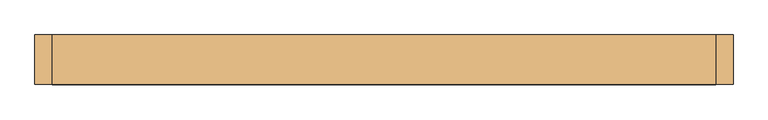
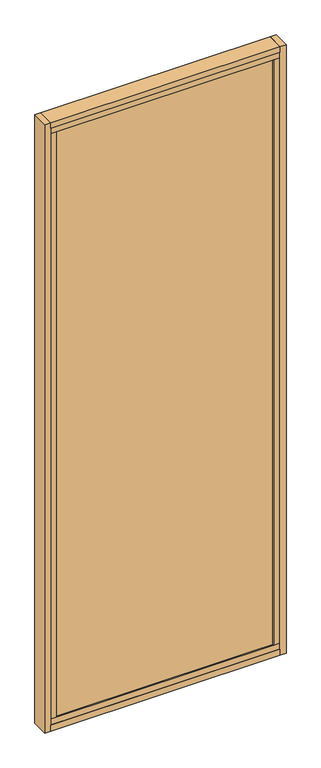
"""IFC4 building model written with IfcOpenShell, lengths in millimetres: door geometry, Mobiliário_Mobiliário de Escritório_Painel de Vidro Duplo com Persiana - AWT E AWL (Completo)_Marelli : AWT - Temperado."""

from ifc_helpers import new_model, si_unit, frame, origin, origin_with_axes, place, context, project, spatial, polyline, outline, extrude, source, transform, mapped, element, save


def door_aa0b3f22(model_context):
    return source(origin(), model_context, "Body", "SweptSolid", [
        extrude(outline(polyline([(570.0, 42.5), (570.0, -42.5), (-570.0, -42.5), (-570.0, 42.5), (570.0, 42.5)])), origin_with_axes(), (0.0, 0.0, 1.0), 30.0),
        extrude(outline(polyline([(570.0, 39.5), (570.0, -39.5), (-570.0, -39.5), (-570.0, 39.5), (570.0, 39.5)])), frame((0.0, 0.0, 30.0), z_axis=(0.0, 0.0, 1.0), x_axis=(1.0, 0.0, 0.0)), (0.0, 0.0, 1.0), 30.0),
        extrude(outline(polyline([(540.0, 13.6216022), (540.0, -11.3783978), (-540.0, -11.3783978), (-540.0, 13.6216022), (540.0, 13.6216022)])), frame((0.0, 0.0, 3107.0), z_axis=(0.0, 0.0, 1.0), x_axis=(1.0, 0.0, 0.0)), (0.0, 0.0, 1.0), 25.0),
        extrude(outline(polyline([(570.0, 42.5), (570.0, -42.5), (-570.0, -42.5), (-570.0, 42.5), (570.0, 42.5)])), frame((0.0, 0.0, 3170.0), z_axis=(0.0, 0.0, 1.0), x_axis=(1.0, 0.0, 0.0)), (0.0, 0.0, 1.0), 30.0),
        extrude(outline(polyline([(570.0, 39.5), (570.0, -39.5), (-570.0, -39.5), (-570.0, 39.5), (570.0, 39.5)])), frame((0.0, 0.0, 3140.0), z_axis=(0.0, 0.0, 1.0), x_axis=(1.0, 0.0, 0.0)), (0.0, 0.0, 1.0), 30.0),
        extrude(outline(polyline([(-600.0, -42.5), (-600.0, 42.5), (-570.0, 42.5), (-570.0, -42.5), (-600.0, -42.5)])), origin_with_axes(), (0.0, 0.0, 1.0), 3200.0),
        extrude(outline(polyline([(600.0, -42.5), (570.0, -42.5), (570.0, 42.5), (600.0, 42.5), (600.0, -42.5)])), origin_with_axes(), (0.0, 0.0, 1.0), 3200.0),
        extrude(outline(polyline([(-540.0, 39.5), (-540.0, -39.5), (-570.0, -39.5), (-570.0, 39.5), (-540.0, 39.5)])), frame((0.0, 0.0, 60.0), z_axis=(0.0, 0.0, 1.0), x_axis=(1.0, 0.0, 0.0)), (0.0, 0.0, 1.0), 3080.0),
        extrude(outline(polyline([(540.0, 39.5), (570.0, 39.5), (570.0, -39.5), (540.0, -39.5), (540.0, 39.5)])), frame((0.0, 0.0, 60.0), z_axis=(0.0, 0.0, 1.0), x_axis=(1.0, 0.0, 0.0)), (0.0, 0.0, 1.0), 3080.0),
        extrude(outline(polyline([(540.0, -25.5), (540.0, -31.5), (-540.0, -31.5), (-540.0, -25.5), (540.0, -25.5)])), frame((0.0, 0.0, 60.0), z_axis=(0.0, 0.0, 1.0), x_axis=(1.0, 0.0, 0.0)), (0.0, 0.0, 1.0), 3080.0),
        extrude(outline(polyline([(540.0, 31.5), (540.0, 25.5), (-540.0, 25.5), (-540.0, 31.5), (540.0, 31.5)])), frame((0.0, 0.0, 60.0), z_axis=(0.0, 0.0, 1.0), x_axis=(1.0, 0.0, 0.0)), (0.0, 0.0, 1.0), 3080.0),
        extrude(outline(polyline([(540.0, 8.0), (540.0, -8.0), (-540.0, -8.0), (-540.0, 8.0), (540.0, 8.0)])), frame((0.0, 0.0, 1051.2), z_axis=(0.0, 0.0, 1.0), x_axis=(1.0, 0.0, 0.0)), (0.0, 0.0, 1.0), 0.8),
        extrude(outline(polyline([(540.0, 8.0), (540.0, -8.0), (-540.0, -8.0), (-540.0, 8.0), (540.0, 8.0)])), frame((0.0, 0.0, 1081.2), z_axis=(0.0, 0.0, 1.0), x_axis=(1.0, 0.0, 0.0)), (0.0, 0.0, 1.0), 0.8),
        extrude(outline(polyline([(540.0, 8.0), (540.0, -8.0), (-540.0, -8.0), (-540.0, 8.0), (540.0, 8.0)])), frame((0.0, 0.0, 1111.2), z_axis=(0.0, 0.0, 1.0), x_axis=(1.0, 0.0, 0.0)), (0.0, 0.0, 1.0), 0.8),
        extrude(outline(polyline([(540.0, 8.0), (540.0, -8.0), (-540.0, -8.0), (-540.0, 8.0), (540.0, 8.0)])), frame((0.0, 0.0, 1141.2), z_axis=(0.0, 0.0, 1.0), x_axis=(1.0, 0.0, 0.0)), (0.0, 0.0, 1.0), 0.8),
        extrude(outline(polyline([(540.0, 8.0), (540.0, -8.0), (-540.0, -8.0), (-540.0, 8.0), (540.0, 8.0)])), frame((0.0, 0.0, 1171.2), z_axis=(0.0, 0.0, 1.0), x_axis=(1.0, 0.0, 0.0)), (0.0, 0.0, 1.0), 0.8),
        extrude(outline(polyline([(540.0, 8.0), (540.0, -8.0), (-540.0, -8.0), (-540.0, 8.0), (540.0, 8.0)])), frame((0.0, 0.0, 1021.2), z_axis=(0.0, 0.0, 1.0), x_axis=(1.0, 0.0, 0.0)), (0.0, 0.0, 1.0), 0.8),
        extrude(outline(polyline([(540.0, 8.0), (540.0, -8.0), (-540.0, -8.0), (-540.0, 8.0), (540.0, 8.0)])), frame((0.0, 0.0, 991.2), z_axis=(0.0, 0.0, 1.0), x_axis=(1.0, 0.0, 0.0)), (0.0, 0.0, 1.0), 0.8),
        extrude(outline(polyline([(540.0, 8.0), (540.0, -8.0), (-540.0, -8.0), (-540.0, 8.0), (540.0, 8.0)])), frame((0.0, 0.0, 961.2), z_axis=(0.0, 0.0, 1.0), x_axis=(1.0, 0.0, 0.0)), (0.0, 0.0, 1.0), 0.8),
        extrude(outline(polyline([(540.0, 8.0), (540.0, -8.0), (-540.0, -8.0), (-540.0, 8.0), (540.0, 8.0)])), frame((0.0, 0.0, 931.2), z_axis=(0.0, 0.0, 1.0), x_axis=(1.0, 0.0, 0.0)), (0.0, 0.0, 1.0), 0.8),
        extrude(outline(polyline([(540.0, 8.0), (540.0, -8.0), (-540.0, -8.0), (-540.0, 8.0), (540.0, 8.0)])), frame((0.0, 0.0, 901.2), z_axis=(0.0, 0.0, 1.0), x_axis=(1.0, 0.0, 0.0)), (0.0, 0.0, 1.0), 0.8),
        extrude(outline(polyline([(540.0, 8.0), (540.0, -8.0), (-540.0, -8.0), (-540.0, 8.0), (540.0, 8.0)])), frame((0.0, 0.0, 661.2), z_axis=(0.0, 0.0, 1.0), x_axis=(1.0, 0.0, 0.0)), (0.0, 0.0, 1.0), 0.8),
        extrude(outline(polyline([(540.0, 8.0), (540.0, -8.0), (-540.0, -8.0), (-540.0, 8.0), (540.0, 8.0)])), frame((0.0, 0.0, 691.2), z_axis=(0.0, 0.0, 1.0), x_axis=(1.0, 0.0, 0.0)), (0.0, 0.0, 1.0), 0.8),
        extrude(outline(polyline([(540.0, 8.0), (540.0, -8.0), (-540.0, -8.0), (-540.0, 8.0), (540.0, 8.0)])), frame((0.0, 0.0, 721.2), z_axis=(0.0, 0.0, 1.0), x_axis=(1.0, 0.0, 0.0)), (0.0, 0.0, 1.0), 0.8),
        extrude(outline(polyline([(540.0, 8.0), (540.0, -8.0), (-540.0, -8.0), (-540.0, 8.0), (540.0, 8.0)])), frame((0.0, 0.0, 751.2), z_axis=(0.0, 0.0, 1.0), x_axis=(1.0, 0.0, 0.0)), (0.0, 0.0, 1.0), 0.8),
        extrude(outline(polyline([(540.0, 8.0), (540.0, -8.0), (-540.0, -8.0), (-540.0, 8.0), (540.0, 8.0)])), frame((0.0, 0.0, 781.2), z_axis=(0.0, 0.0, 1.0), x_axis=(1.0, 0.0, 0.0)), (0.0, 0.0, 1.0), 0.8),
        extrude(outline(polyline([(540.0, 8.0), (540.0, -8.0), (-540.0, -8.0), (-540.0, 8.0), (540.0, 8.0)])), frame((0.0, 0.0, 811.2), z_axis=(0.0, 0.0, 1.0), x_axis=(1.0, 0.0, 0.0)), (0.0, 0.0, 1.0), 0.8),
        extrude(outline(polyline([(540.0, 8.0), (540.0, -8.0), (-540.0, -8.0), (-540.0, 8.0), (540.0, 8.0)])), frame((0.0, 0.0, 841.2), z_axis=(0.0, 0.0, 1.0), x_axis=(1.0, 0.0, 0.0)), (0.0, 0.0, 1.0), 0.8),
        extrude(outline(polyline([(540.0, 8.0), (540.0, -8.0), (-540.0, -8.0), (-540.0, 8.0), (540.0, 8.0)])), frame((0.0, 0.0, 871.2), z_axis=(0.0, 0.0, 1.0), x_axis=(1.0, 0.0, 0.0)), (0.0, 0.0, 1.0), 0.8),
        extrude(outline(polyline([(540.0, 8.0), (540.0, -8.0), (-540.0, -8.0), (-540.0, 8.0), (540.0, 8.0)])), frame((0.0, 0.0, 3091.2), z_axis=(0.0, 0.0, 1.0), x_axis=(1.0, 0.0, 0.0)), (0.0, 0.0, 1.0), 0.8),
        extrude(outline(polyline([(540.0, 8.0), (540.0, -8.0), (-540.0, -8.0), (-540.0, 8.0), (540.0, 8.0)])), frame((0.0, 0.0, 3061.2), z_axis=(0.0, 0.0, 1.0), x_axis=(1.0, 0.0, 0.0)), (0.0, 0.0, 1.0), 0.8),
        extrude(outline(polyline([(540.0, 8.0), (540.0, -8.0), (-540.0, -8.0), (-540.0, 8.0), (540.0, 8.0)])), frame((0.0, 0.0, 3031.2), z_axis=(0.0, 0.0, 1.0), x_axis=(1.0, 0.0, 0.0)), (0.0, 0.0, 1.0), 0.8),
        extrude(outline(polyline([(540.0, 8.0), (540.0, -8.0), (-540.0, -8.0), (-540.0, 8.0), (540.0, 8.0)])), frame((0.0, 0.0, 3001.2), z_axis=(0.0, 0.0, 1.0), x_axis=(1.0, 0.0, 0.0)), (0.0, 0.0, 1.0), 0.8),
        extrude(outline(polyline([(540.0, 8.0), (540.0, -8.0), (-540.0, -8.0), (-540.0, 8.0), (540.0, 8.0)])), frame((0.0, 0.0, 2971.2), z_axis=(0.0, 0.0, 1.0), x_axis=(1.0, 0.0, 0.0)), (0.0, 0.0, 1.0), 0.8),
        extrude(outline(polyline([(540.0, 8.0), (540.0, -8.0), (-540.0, -8.0), (-540.0, 8.0), (540.0, 8.0)])), frame((0.0, 0.0, 2941.2), z_axis=(0.0, 0.0, 1.0), x_axis=(1.0, 0.0, 0.0)), (0.0, 0.0, 1.0), 0.8),
        extrude(outline(polyline([(540.0, 8.0), (540.0, -8.0), (-540.0, -8.0), (-540.0, 8.0), (540.0, 8.0)])), frame((0.0, 0.0, 2911.2), z_axis=(0.0, 0.0, 1.0), x_axis=(1.0, 0.0, 0.0)), (0.0, 0.0, 1.0), 0.8),
        extrude(outline(polyline([(540.0, 8.0), (540.0, -8.0), (-540.0, -8.0), (-540.0, 8.0), (540.0, 8.0)])), frame((0.0, 0.0, 2881.2), z_axis=(0.0, 0.0, 1.0), x_axis=(1.0, 0.0, 0.0)), (0.0, 0.0, 1.0), 0.8),
        extrude(outline(polyline([(540.0, 8.0), (540.0, -8.0), (-540.0, -8.0), (-540.0, 8.0), (540.0, 8.0)])), frame((0.0, 0.0, 2851.2), z_axis=(0.0, 0.0, 1.0), x_axis=(1.0, 0.0, 0.0)), (0.0, 0.0, 1.0), 0.8),
        extrude(outline(polyline([(540.0, 8.0), (540.0, -8.0), (-540.0, -8.0), (-540.0, 8.0), (540.0, 8.0)])), frame((0.0, 0.0, 2821.2), z_axis=(0.0, 0.0, 1.0), x_axis=(1.0, 0.0, 0.0)), (0.0, 0.0, 1.0), 0.8),
        extrude(outline(polyline([(540.0, 8.0), (540.0, -8.0), (-540.0, -8.0), (-540.0, 8.0), (540.0, 8.0)])), frame((0.0, 0.0, 2791.2), z_axis=(0.0, 0.0, 1.0), x_axis=(1.0, 0.0, 0.0)), (0.0, 0.0, 1.0), 0.8),
        extrude(outline(polyline([(540.0, 8.0), (540.0, -8.0), (-540.0, -8.0), (-540.0, 8.0), (540.0, 8.0)])), frame((0.0, 0.0, 2761.2), z_axis=(0.0, 0.0, 1.0), x_axis=(1.0, 0.0, 0.0)), (0.0, 0.0, 1.0), 0.8),
        extrude(outline(polyline([(540.0, 8.0), (540.0, -8.0), (-540.0, -8.0), (-540.0, 8.0), (540.0, 8.0)])), frame((0.0, 0.0, 2731.2), z_axis=(0.0, 0.0, 1.0), x_axis=(1.0, 0.0, 0.0)), (0.0, 0.0, 1.0), 0.8),
        extrude(outline(polyline([(540.0, 8.0), (540.0, -8.0), (-540.0, -8.0), (-540.0, 8.0), (540.0, 8.0)])), frame((0.0, 0.0, 2701.2), z_axis=(0.0, 0.0, 1.0), x_axis=(1.0, 0.0, 0.0)), (0.0, 0.0, 1.0), 0.8),
        extrude(outline(polyline([(540.0, 8.0), (540.0, -8.0), (-540.0, -8.0), (-540.0, 8.0), (540.0, 8.0)])), frame((0.0, 0.0, 2671.2), z_axis=(0.0, 0.0, 1.0), x_axis=(1.0, 0.0, 0.0)), (0.0, 0.0, 1.0), 0.8),
        extrude(outline(polyline([(540.0, 8.0), (540.0, -8.0), (-540.0, -8.0), (-540.0, 8.0), (540.0, 8.0)])), frame((0.0, 0.0, 2641.2), z_axis=(0.0, 0.0, 1.0), x_axis=(1.0, 0.0, 0.0)), (0.0, 0.0, 1.0), 0.8),
        extrude(outline(polyline([(540.0, 8.0), (540.0, -8.0), (-540.0, -8.0), (-540.0, 8.0), (540.0, 8.0)])), frame((0.0, 0.0, 2611.2), z_axis=(0.0, 0.0, 1.0), x_axis=(1.0, 0.0, 0.0)), (0.0, 0.0, 1.0), 0.8),
        extrude(outline(polyline([(540.0, 8.0), (540.0, -8.0), (-540.0, -8.0), (-540.0, 8.0), (540.0, 8.0)])), frame((0.0, 0.0, 2581.2), z_axis=(0.0, 0.0, 1.0), x_axis=(1.0, 0.0, 0.0)), (0.0, 0.0, 1.0), 0.8),
        extrude(outline(polyline([(540.0, 8.0), (540.0, -8.0), (-540.0, -8.0), (-540.0, 8.0), (540.0, 8.0)])), frame((0.0, 0.0, 2551.2), z_axis=(0.0, 0.0, 1.0), x_axis=(1.0, 0.0, 0.0)), (0.0, 0.0, 1.0), 0.8),
        extrude(outline(polyline([(540.0, 8.0), (540.0, -8.0), (-540.0, -8.0), (-540.0, 8.0), (540.0, 8.0)])), frame((0.0, 0.0, 2521.2), z_axis=(0.0, 0.0, 1.0), x_axis=(1.0, 0.0, 0.0)), (0.0, 0.0, 1.0), 0.8),
        extrude(outline(polyline([(540.0, 8.0), (540.0, -8.0), (-540.0, -8.0), (-540.0, 8.0), (540.0, 8.0)])), frame((0.0, 0.0, 2491.2), z_axis=(0.0, 0.0, 1.0), x_axis=(1.0, 0.0, 0.0)), (0.0, 0.0, 1.0), 0.8),
        extrude(outline(polyline([(540.0, 8.0), (540.0, -8.0), (-540.0, -8.0), (-540.0, 8.0), (540.0, 8.0)])), frame((0.0, 0.0, 2461.2), z_axis=(0.0, 0.0, 1.0), x_axis=(1.0, 0.0, 0.0)), (0.0, 0.0, 1.0), 0.8),
        extrude(outline(polyline([(540.0, 8.0), (540.0, -8.0), (-540.0, -8.0), (-540.0, 8.0), (540.0, 8.0)])), frame((0.0, 0.0, 2431.2), z_axis=(0.0, 0.0, 1.0), x_axis=(1.0, 0.0, 0.0)), (0.0, 0.0, 1.0), 0.8),
        extrude(outline(polyline([(540.0, 8.0), (540.0, -8.0), (-540.0, -8.0), (-540.0, 8.0), (540.0, 8.0)])), frame((0.0, 0.0, 2401.2), z_axis=(0.0, 0.0, 1.0), x_axis=(1.0, 0.0, 0.0)), (0.0, 0.0, 1.0), 0.8),
        extrude(outline(polyline([(540.0, 8.0), (540.0, -8.0), (-540.0, -8.0), (-540.0, 8.0), (540.0, 8.0)])), frame((0.0, 0.0, 2371.2), z_axis=(0.0, 0.0, 1.0), x_axis=(1.0, 0.0, 0.0)), (0.0, 0.0, 1.0), 0.8),
        extrude(outline(polyline([(540.0, 8.0), (540.0, -8.0), (-540.0, -8.0), (-540.0, 8.0), (540.0, 8.0)])), frame((0.0, 0.0, 2341.2), z_axis=(0.0, 0.0, 1.0), x_axis=(1.0, 0.0, 0.0)), (0.0, 0.0, 1.0), 0.8),
        extrude(outline(polyline([(540.0, 8.0), (540.0, -8.0), (-540.0, -8.0), (-540.0, 8.0), (540.0, 8.0)])), frame((0.0, 0.0, 2311.2), z_axis=(0.0, 0.0, 1.0), x_axis=(1.0, 0.0, 0.0)), (0.0, 0.0, 1.0), 0.8),
        extrude(outline(polyline([(540.0, 8.0), (540.0, -8.0), (-540.0, -8.0), (-540.0, 8.0), (540.0, 8.0)])), frame((0.0, 0.0, 2281.2), z_axis=(0.0, 0.0, 1.0), x_axis=(1.0, 0.0, 0.0)), (0.0, 0.0, 1.0), 0.8),
        extrude(outline(polyline([(540.0, 8.0), (540.0, -8.0), (-540.0, -8.0), (-540.0, 8.0), (540.0, 8.0)])), frame((0.0, 0.0, 2251.2), z_axis=(0.0, 0.0, 1.0), x_axis=(1.0, 0.0, 0.0)), (0.0, 0.0, 1.0), 0.8),
        extrude(outline(polyline([(540.0, 8.0), (540.0, -8.0), (-540.0, -8.0), (-540.0, 8.0), (540.0, 8.0)])), frame((0.0, 0.0, 2221.2), z_axis=(0.0, 0.0, 1.0), x_axis=(1.0, 0.0, 0.0)), (0.0, 0.0, 1.0), 0.8),
        extrude(outline(polyline([(540.0, 8.0), (540.0, -8.0), (-540.0, -8.0), (-540.0, 8.0), (540.0, 8.0)])), frame((0.0, 0.0, 2191.2), z_axis=(0.0, 0.0, 1.0), x_axis=(1.0, 0.0, 0.0)), (0.0, 0.0, 1.0), 0.8),
        extrude(outline(polyline([(540.0, 8.0), (540.0, -8.0), (-540.0, -8.0), (-540.0, 8.0), (540.0, 8.0)])), frame((0.0, 0.0, 2161.2), z_axis=(0.0, 0.0, 1.0), x_axis=(1.0, 0.0, 0.0)), (0.0, 0.0, 1.0), 0.8),
        extrude(outline(polyline([(540.0, 8.0), (540.0, -8.0), (-540.0, -8.0), (-540.0, 8.0), (540.0, 8.0)])), frame((0.0, 0.0, 2131.2), z_axis=(0.0, 0.0, 1.0), x_axis=(1.0, 0.0, 0.0)), (0.0, 0.0, 1.0), 0.8),
        extrude(outline(polyline([(540.0, 8.0), (540.0, -8.0), (-540.0, -8.0), (-540.0, 8.0), (540.0, 8.0)])), frame((0.0, 0.0, 2101.2), z_axis=(0.0, 0.0, 1.0), x_axis=(1.0, 0.0, 0.0)), (0.0, 0.0, 1.0), 0.8),
        extrude(outline(polyline([(540.0, 8.0), (540.0, -8.0), (-540.0, -8.0), (-540.0, 8.0), (540.0, 8.0)])), frame((0.0, 0.0, 2071.2), z_axis=(0.0, 0.0, 1.0), x_axis=(1.0, 0.0, 0.0)), (0.0, 0.0, 1.0), 0.8),
        extrude(outline(polyline([(540.0, 8.0), (540.0, -8.0), (-540.0, -8.0), (-540.0, 8.0), (540.0, 8.0)])), frame((0.0, 0.0, 2041.2), z_axis=(0.0, 0.0, 1.0), x_axis=(1.0, 0.0, 0.0)), (0.0, 0.0, 1.0), 0.8),
        extrude(outline(polyline([(540.0, 8.0), (540.0, -8.0), (-540.0, -8.0), (-540.0, 8.0), (540.0, 8.0)])), frame((0.0, 0.0, 2011.2), z_axis=(0.0, 0.0, 1.0), x_axis=(1.0, 0.0, 0.0)), (0.0, 0.0, 1.0), 0.8),
        extrude(outline(polyline([(540.0, 8.0), (540.0, -8.0), (-540.0, -8.0), (-540.0, 8.0), (540.0, 8.0)])), frame((0.0, 0.0, 1981.2), z_axis=(0.0, 0.0, 1.0), x_axis=(1.0, 0.0, 0.0)), (0.0, 0.0, 1.0), 0.8),
        extrude(outline(polyline([(540.0, 8.0), (540.0, -8.0), (-540.0, -8.0), (-540.0, 8.0), (540.0, 8.0)])), frame((0.0, 0.0, 1951.2), z_axis=(0.0, 0.0, 1.0), x_axis=(1.0, 0.0, 0.0)), (0.0, 0.0, 1.0), 0.8),
        extrude(outline(polyline([(540.0, 8.0), (540.0, -8.0), (-540.0, -8.0), (-540.0, 8.0), (540.0, 8.0)])), frame((0.0, 0.0, 1921.2), z_axis=(0.0, 0.0, 1.0), x_axis=(1.0, 0.0, 0.0)), (0.0, 0.0, 1.0), 0.8),
        extrude(outline(polyline([(540.0, 8.0), (540.0, -8.0), (-540.0, -8.0), (-540.0, 8.0), (540.0, 8.0)])), frame((0.0, 0.0, 1891.2), z_axis=(0.0, 0.0, 1.0), x_axis=(1.0, 0.0, 0.0)), (0.0, 0.0, 1.0), 0.8),
        extrude(outline(polyline([(540.0, 8.0), (540.0, -8.0), (-540.0, -8.0), (-540.0, 8.0), (540.0, 8.0)])), frame((0.0, 0.0, 1861.2), z_axis=(0.0, 0.0, 1.0), x_axis=(1.0, 0.0, 0.0)), (0.0, 0.0, 1.0), 0.8),
        extrude(outline(polyline([(540.0, 8.0), (540.0, -8.0), (-540.0, -8.0), (-540.0, 8.0), (540.0, 8.0)])), frame((0.0, 0.0, 1831.2), z_axis=(0.0, 0.0, 1.0), x_axis=(1.0, 0.0, 0.0)), (0.0, 0.0, 1.0), 0.8),
        extrude(outline(polyline([(540.0, 8.0), (540.0, -8.0), (-540.0, -8.0), (-540.0, 8.0), (540.0, 8.0)])), frame((0.0, 0.0, 1801.2), z_axis=(0.0, 0.0, 1.0), x_axis=(1.0, 0.0, 0.0)), (0.0, 0.0, 1.0), 0.8),
        extrude(outline(polyline([(540.0, 8.0), (540.0, -8.0), (-540.0, -8.0), (-540.0, 8.0), (540.0, 8.0)])), frame((0.0, 0.0, 1501.2), z_axis=(0.0, 0.0, 1.0), x_axis=(1.0, 0.0, 0.0)), (0.0, 0.0, 1.0), 0.8),
        extrude(outline(polyline([(540.0, 8.0), (540.0, -8.0), (-540.0, -8.0), (-540.0, 8.0), (540.0, 8.0)])), frame((0.0, 0.0, 1531.2), z_axis=(0.0, 0.0, 1.0), x_axis=(1.0, 0.0, 0.0)), (0.0, 0.0, 1.0), 0.8),
        extrude(outline(polyline([(540.0, 8.0), (540.0, -8.0), (-540.0, -8.0), (-540.0, 8.0), (540.0, 8.0)])), frame((0.0, 0.0, 1561.2), z_axis=(0.0, 0.0, 1.0), x_axis=(1.0, 0.0, 0.0)), (0.0, 0.0, 1.0), 0.8),
        extrude(outline(polyline([(540.0, 8.0), (540.0, -8.0), (-540.0, -8.0), (-540.0, 8.0), (540.0, 8.0)])), frame((0.0, 0.0, 1591.2), z_axis=(0.0, 0.0, 1.0), x_axis=(1.0, 0.0, 0.0)), (0.0, 0.0, 1.0), 0.8),
        extrude(outline(polyline([(540.0, 8.0), (540.0, -8.0), (-540.0, -8.0), (-540.0, 8.0), (540.0, 8.0)])), frame((0.0, 0.0, 1621.2), z_axis=(0.0, 0.0, 1.0), x_axis=(1.0, 0.0, 0.0)), (0.0, 0.0, 1.0), 0.8),
        extrude(outline(polyline([(540.0, 8.0), (540.0, -8.0), (-540.0, -8.0), (-540.0, 8.0), (540.0, 8.0)])), frame((0.0, 0.0, 1651.2), z_axis=(0.0, 0.0, 1.0), x_axis=(1.0, 0.0, 0.0)), (0.0, 0.0, 1.0), 0.8),
        extrude(outline(polyline([(540.0, 8.0), (540.0, -8.0), (-540.0, -8.0), (-540.0, 8.0), (540.0, 8.0)])), frame((0.0, 0.0, 1681.2), z_axis=(0.0, 0.0, 1.0), x_axis=(1.0, 0.0, 0.0)), (0.0, 0.0, 1.0), 0.8),
        extrude(outline(polyline([(540.0, 8.0), (540.0, -8.0), (-540.0, -8.0), (-540.0, 8.0), (540.0, 8.0)])), frame((0.0, 0.0, 1711.2), z_axis=(0.0, 0.0, 1.0), x_axis=(1.0, 0.0, 0.0)), (0.0, 0.0, 1.0), 0.8),
        extrude(outline(polyline([(540.0, 8.0), (540.0, -8.0), (-540.0, -8.0), (-540.0, 8.0), (540.0, 8.0)])), frame((0.0, 0.0, 1741.2), z_axis=(0.0, 0.0, 1.0), x_axis=(1.0, 0.0, 0.0)), (0.0, 0.0, 1.0), 0.8),
        extrude(outline(polyline([(540.0, 8.0), (540.0, -8.0), (-540.0, -8.0), (-540.0, 8.0), (540.0, 8.0)])), frame((0.0, 0.0, 1771.2), z_axis=(0.0, 0.0, 1.0), x_axis=(1.0, 0.0, 0.0)), (0.0, 0.0, 1.0), 0.8),
        extrude(outline(polyline([(540.0, 8.0), (540.0, -8.0), (-540.0, -8.0), (-540.0, 8.0), (540.0, 8.0)])), frame((0.0, 0.0, 1201.2), z_axis=(0.0, 0.0, 1.0), x_axis=(1.0, 0.0, 0.0)), (0.0, 0.0, 1.0), 0.8),
        extrude(outline(polyline([(540.0, 8.0), (540.0, -8.0), (-540.0, -8.0), (-540.0, 8.0), (540.0, 8.0)])), frame((0.0, 0.0, 1471.2), z_axis=(0.0, 0.0, 1.0), x_axis=(1.0, 0.0, 0.0)), (0.0, 0.0, 1.0), 0.8),
        extrude(outline(polyline([(540.0, 8.0), (540.0, -8.0), (-540.0, -8.0), (-540.0, 8.0), (540.0, 8.0)])), frame((0.0, 0.0, 1441.2), z_axis=(0.0, 0.0, 1.0), x_axis=(1.0, 0.0, 0.0)), (0.0, 0.0, 1.0), 0.8),
        extrude(outline(polyline([(540.0, 8.0), (540.0, -8.0), (-540.0, -8.0), (-540.0, 8.0), (540.0, 8.0)])), frame((0.0, 0.0, 1411.2), z_axis=(0.0, 0.0, 1.0), x_axis=(1.0, 0.0, 0.0)), (0.0, 0.0, 1.0), 0.8),
        extrude(outline(polyline([(540.0, 8.0), (540.0, -8.0), (-540.0, -8.0), (-540.0, 8.0), (540.0, 8.0)])), frame((0.0, 0.0, 1381.2), z_axis=(0.0, 0.0, 1.0), x_axis=(1.0, 0.0, 0.0)), (0.0, 0.0, 1.0), 0.8),
        extrude(outline(polyline([(540.0, 8.0), (540.0, -8.0), (-540.0, -8.0), (-540.0, 8.0), (540.0, 8.0)])), frame((0.0, 0.0, 1351.2), z_axis=(0.0, 0.0, 1.0), x_axis=(1.0, 0.0, 0.0)), (0.0, 0.0, 1.0), 0.8),
        extrude(outline(polyline([(540.0, 8.0), (540.0, -8.0), (-540.0, -8.0), (-540.0, 8.0), (540.0, 8.0)])), frame((0.0, 0.0, 1321.2), z_axis=(0.0, 0.0, 1.0), x_axis=(1.0, 0.0, 0.0)), (0.0, 0.0, 1.0), 0.8),
        extrude(outline(polyline([(540.0, 8.0), (540.0, -8.0), (-540.0, -8.0), (-540.0, 8.0), (540.0, 8.0)])), frame((0.0, 0.0, 1291.2), z_axis=(0.0, 0.0, 1.0), x_axis=(1.0, 0.0, 0.0)), (0.0, 0.0, 1.0), 0.8),
        extrude(outline(polyline([(540.0, 8.0), (540.0, -8.0), (-540.0, -8.0), (-540.0, 8.0), (540.0, 8.0)])), frame((0.0, 0.0, 1261.2), z_axis=(0.0, 0.0, 1.0), x_axis=(1.0, 0.0, 0.0)), (0.0, 0.0, 1.0), 0.8),
        extrude(outline(polyline([(540.0, 8.0), (540.0, -8.0), (-540.0, -8.0), (-540.0, 8.0), (540.0, 8.0)])), frame((0.0, 0.0, 1231.2), z_axis=(0.0, 0.0, 1.0), x_axis=(1.0, 0.0, 0.0)), (0.0, 0.0, 1.0), 0.8),
    ])


if __name__ == "__main__":
    model = new_model("IFC4")
    model_context = context("Model", 3, world=origin())
    ifc_project = project(units=[si_unit("LENGTHUNIT", "METRE", prefix="MILLI")], contexts=[model_context])
    site = spatial("IfcSite", under=ifc_project)
    building = spatial("IfcBuilding", under=site)
    placement = place(None, origin())
    door_shape = door_aa0b3f22(model_context)
    element("IfcDoor", 1, ObjectType="Mobiliário_Mobiliário de Escritório_Painel de Vidro Duplo com Persiana - AWT E AWL (Completo)_Marelli : AWT - Temperado", at=placement, inside=building, context=model_context, shape_type="MappedRepresentation", body=[
        mapped(door_shape, transform((0.0, 0.0, 0.0), x_axis=(1.0, 0.0, 0.0), y_axis=(0.0, 1.0, 0.0), z_axis=(0.0, 0.0, 1.0))),
    ])
    save(model, "model.ifc")
